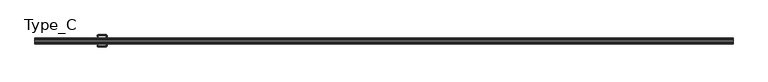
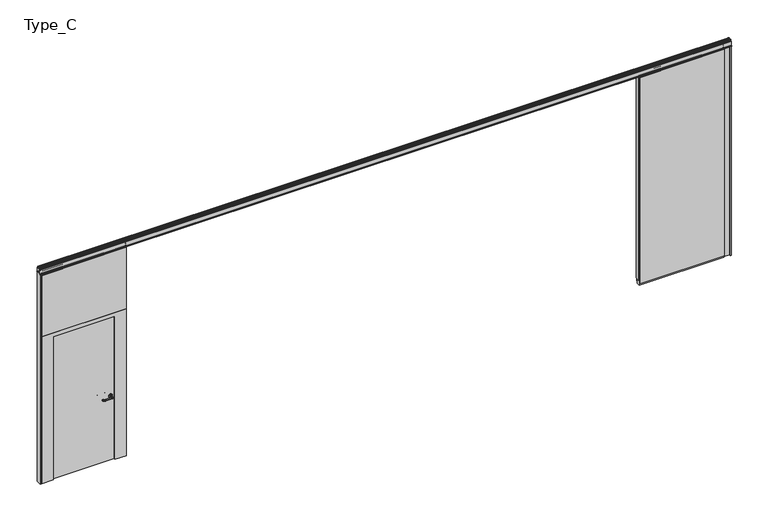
"""IFC4 building model written with IfcOpenShell, lengths in millimetres: proxy geometry, Planner Wall_ダブルガラス(Door) : Type_C."""

from ifc_helpers import new_model, si_unit, point, frame, frame_2d, origin, origin_with_axes, place, context, project, spatial, polyline, circle_curve, ellipse_curve, trimmed, segment, composite_curve, outline, extrude, faceted_brep, source, transform, mapped, element, save
from ifc_brep_helpers import plane_surface, cylinder_surface, revolved_surface, advanced_brep


def type_c_2b327253(model_context):
    return source(origin(), model_context, "Body", "SolidModel", [
        advanced_brep(
        [(961.125, 33.5, 930.0), (957.125, 33.5, 930.0), (952.125, 33.5, 925.0), (952.125, 33.5, 915.0477623), (957.125, 33.5, 910.0477623), (961.125, 33.5, 910.0477623), (966.125, 33.5, 915.0477623), (966.125, 33.5, 925.0), (966.125, 68.5, 925.0), (961.125, 68.5, 930.0), (966.125, 68.5, 915.0477623), (961.125, 68.5, 910.0477623), (957.125, 68.5, 910.0477623), (949.125, 76.5, 910.0477623), (849.125, 76.5, 910.0477623), (841.125, 68.5, 910.0477623), (841.125, 63.5, 910.0477623), (837.125, 63.5, 910.0477623), (837.125, 68.5, 910.0477623), (849.125, 80.5, 910.0477623), (949.125, 80.5, 910.0477623), (952.125, 68.5, 915.0477623), (952.125, 68.5, 925.0), (957.125, 68.5, 930.0), (949.125, 80.5, 930.0), (849.125, 80.5, 930.0), (837.125, 68.5, 930.0), (837.125, 63.5, 930.0), (841.125, 63.5, 930.0), (841.125, 68.5, 930.0), (849.125, 76.5, 930.0), (949.125, 76.5, 930.0), (949.125, 85.5, 925.0), (949.125, 85.5, 915.0477623), (949.125, 71.5, 915.0477623), (949.125, 71.5, 925.0), (849.125, 85.5, 925.0), (849.125, 85.5, 915.0477623), (849.125, 71.5, 915.0477623), (849.125, 71.5, 925.0), (832.125, 68.5, 925.0), (832.125, 68.5, 915.0477623), (846.125, 68.5, 915.0477623), (846.125, 68.5, 925.0), (832.125, 63.5, 925.0), (832.125, 63.5, 915.0477623), (846.125, 63.5, 915.0477623), (846.125, 63.5, 925.0)],
        [
            (0, 1),
            (1, 2, circle_curve(frame((957.125, 33.5, 925.0), z_axis=(0.0, -1.0, 0.0), x_axis=(1.0, 0.0, 0.0)), 5.0)),
            (2, 3),
            (3, 4, circle_curve(frame((957.125, 33.5, 915.0477623), z_axis=(0.0, -1.0, 0.0), x_axis=(1.0, 0.0, 0.0)), 5.0)),
            (4, 5),
            (5, 6, circle_curve(frame((961.125, 33.5, 915.0477623), z_axis=(0.0, -1.0, 0.0), x_axis=(1.0, 0.0, 0.0)), 5.0)),
            (6, 7),
            (7, 0, circle_curve(frame((961.125, 33.5, 925.0), z_axis=(0.0, -1.0, 0.0), x_axis=(1.0, 0.0, 0.0)), 5.0)),
            (7, 8),
            (8, 9, circle_curve(frame((961.125, 68.5, 925.0), z_axis=(0.0, -1.0, 0.0), x_axis=(1.0, 0.0, 0.0)), 5.0)),
            (9, 0),
            (6, 10),
            (10, 8),
            (5, 11),
            (11, 10, circle_curve(frame((961.125, 68.5, 915.0477623), z_axis=(0.0, -1.0, 0.0), x_axis=(1.0, 0.0, 0.0)), 5.0)),
            (4, 12),
            (12, 13, circle_curve(frame((949.125, 68.5, 910.0477623), z_axis=(0.0, 0.0, 1.0), x_axis=(1.0, 0.0, 0.0)), 8.0)),
            (13, 14),
            (14, 15, circle_curve(frame((849.125, 68.5, 910.0477623), z_axis=(0.0, 0.0, 1.0), x_axis=(0.0, 1.0, 0.0)), 8.0)),
            (15, 16),
            (16, 17),
            (17, 18),
            (18, 19, circle_curve(frame((849.125, 68.5, 910.0477623), z_axis=(0.0, 0.0, -1.0), x_axis=(0.0, 1.0, 0.0)), 12.0)),
            (19, 20),
            (20, 11, circle_curve(frame((949.125, 68.5, 910.0477623), z_axis=(0.0, 0.0, -1.0), x_axis=(1.0, 0.0, 0.0)), 12.0)),
            (3, 21),
            (21, 12, circle_curve(frame((957.125, 68.5, 915.0477623), z_axis=(0.0, -1.0, 0.0), x_axis=(1.0, 0.0, 0.0)), 5.0)),
            (2, 22),
            (22, 21),
            (1, 23),
            (23, 22, circle_curve(frame((957.125, 68.5, 925.0), z_axis=(0.0, -1.0, 0.0), x_axis=(1.0, 0.0, 0.0)), 5.0)),
            (9, 24, circle_curve(frame((949.125, 68.5, 930.0), z_axis=(0.0, 0.0, 1.0), x_axis=(1.0, 0.0, 0.0)), 12.0)),
            (24, 25),
            (25, 26, circle_curve(frame((849.125, 68.5, 930.0), z_axis=(0.0, 0.0, 1.0), x_axis=(0.0, 1.0, 0.0)), 12.0)),
            (26, 27),
            (27, 28),
            (28, 29),
            (29, 30, circle_curve(frame((849.125, 68.5, 930.0), z_axis=(0.0, 0.0, -1.0), x_axis=(0.0, 1.0, 0.0)), 8.0)),
            (30, 31),
            (31, 23, circle_curve(frame((949.125, 68.5, 930.0), z_axis=(0.0, 0.0, -1.0), x_axis=(1.0, 0.0, 0.0)), 8.0)),
            (32, 24, circle_curve(frame((949.125, 80.5, 925.0), z_axis=(1.0, 0.0, 0.0), x_axis=(0.0, 1.0, 0.0)), 5.0)),
            (8, 32, circle_curve(frame((949.125, 68.5, 925.0), z_axis=(0.0, 0.0, 1.0), x_axis=(1.0, 0.0, 0.0)), 17.0)),
            (33, 32),
            (10, 33, circle_curve(frame((949.125, 68.5, 915.0477623), z_axis=(0.0, 0.0, 1.0), x_axis=(1.0, 0.0, 0.0)), 17.0)),
            (20, 33, circle_curve(frame((949.125, 80.5, 915.0477623), z_axis=(1.0, 0.0, 0.0), x_axis=(0.0, 1.0, 0.0)), 5.0)),
            (34, 13, circle_curve(frame((949.125, 76.5, 915.0477623), z_axis=(1.0, 0.0, 0.0), x_axis=(0.0, 1.0, 0.0)), 5.0)),
            (21, 34, circle_curve(frame((949.125, 68.5, 915.0477623), z_axis=(0.0, 0.0, 1.0), x_axis=(1.0, 0.0, 0.0)), 3.0)),
            (35, 34),
            (22, 35, circle_curve(frame((949.125, 68.5, 925.0), z_axis=(0.0, 0.0, 1.0), x_axis=(1.0, 0.0, 0.0)), 3.0)),
            (31, 35, circle_curve(frame((949.125, 76.5, 925.0), z_axis=(1.0, 0.0, 0.0), x_axis=(0.0, 1.0, 0.0)), 5.0)),
            (32, 36),
            (36, 25, circle_curve(frame((849.125, 80.5, 925.0), z_axis=(1.0, 0.0, 0.0), x_axis=(0.0, 1.0, 0.0)), 5.0)),
            (33, 37),
            (37, 36),
            (19, 37, circle_curve(frame((849.125, 80.5, 915.0477623), z_axis=(1.0, 0.0, 0.0), x_axis=(0.0, 1.0, 0.0)), 5.0)),
            (34, 38),
            (38, 14, circle_curve(frame((849.125, 76.5, 915.0477623), z_axis=(1.0, 0.0, 0.0), x_axis=(0.0, 1.0, 0.0)), 5.0)),
            (35, 39),
            (39, 38),
            (30, 39, circle_curve(frame((849.125, 76.5, 925.0), z_axis=(1.0, 0.0, 0.0), x_axis=(0.0, 1.0, 0.0)), 5.0)),
            (40, 26, circle_curve(frame((837.125, 68.5, 925.0), z_axis=(0.0, 1.0, 0.0), x_axis=(-1.0, 0.0, 0.0)), 5.0)),
            (36, 40, circle_curve(frame((849.125, 68.5, 925.0), z_axis=(0.0, 0.0, 1.0), x_axis=(0.0, 1.0, 0.0)), 17.0)),
            (41, 40),
            (37, 41, circle_curve(frame((849.125, 68.5, 915.0477623), z_axis=(0.0, 0.0, 1.0), x_axis=(0.0, 1.0, 0.0)), 17.0)),
            (18, 41, circle_curve(frame((837.125, 68.5, 915.0477623), z_axis=(0.0, 1.0, 0.0), x_axis=(-1.0, 0.0, 0.0)), 5.0)),
            (42, 15, circle_curve(frame((841.125, 68.5, 915.0477623), z_axis=(0.0, 1.0, 0.0), x_axis=(-1.0, 0.0, 0.0)), 5.0)),
            (38, 42, circle_curve(frame((849.125, 68.5, 915.0477623), z_axis=(0.0, 0.0, 1.0), x_axis=(0.0, 1.0, 0.0)), 3.0)),
            (43, 42),
            (39, 43, circle_curve(frame((849.125, 68.5, 925.0), z_axis=(0.0, 0.0, 1.0), x_axis=(0.0, 1.0, 0.0)), 3.0)),
            (29, 43, circle_curve(frame((841.125, 68.5, 925.0), z_axis=(0.0, 1.0, 0.0), x_axis=(-1.0, 0.0, 0.0)), 5.0)),
            (27, 44, circle_curve(frame((837.125, 63.5, 925.0), z_axis=(0.0, -1.0, 0.0), x_axis=(-1.0, 0.0, 0.0)), 5.0)),
            (44, 45),
            (45, 17, circle_curve(frame((837.125, 63.5, 915.0477623), z_axis=(0.0, -1.0, 0.0), x_axis=(-1.0, 0.0, 0.0)), 5.0)),
            (16, 46, circle_curve(frame((841.125, 63.5, 915.0477623), z_axis=(0.0, -1.0, 0.0), x_axis=(-1.0, 0.0, 0.0)), 5.0)),
            (46, 47),
            (47, 28, circle_curve(frame((841.125, 63.5, 925.0), z_axis=(0.0, -1.0, 0.0), x_axis=(-1.0, 0.0, 0.0)), 5.0)),
            (40, 44),
            (41, 45),
            (42, 46),
            (43, 47),
        ],
        [
            plane_surface(frame((969.323039, 33.5, 920.0), z_axis=(0.0, -1.0, 0.0), x_axis=(0.0, 0.0, 1.0))),
            cylinder_surface(frame((961.125, 33.5, 925.0), z_axis=(0.0, -1.0, 0.0), x_axis=(1.0, 0.0, 0.0)), 5.0),
            plane_surface(frame((966.125, 33.5, 925.0), z_axis=(1.0, 0.0, 0.0), x_axis=(0.0, 1.0, 0.0))),
            cylinder_surface(frame((961.125, 33.5, 915.0477623), z_axis=(0.0, -1.0, 0.0), x_axis=(1.0, 0.0, 0.0)), 5.0),
            plane_surface(frame((961.125, 33.5, 910.0477623), z_axis=(0.0, 0.0, -1.0), x_axis=(0.0, 1.0, 0.0))),
            cylinder_surface(frame((957.125, 33.5, 915.0477623), z_axis=(0.0, -1.0, 0.0), x_axis=(1.0, 0.0, 0.0)), 5.0),
            plane_surface(frame((952.125, 33.5, 915.0477623), z_axis=(-1.0, 0.0, 0.0), x_axis=(0.0, 1.0, 0.0))),
            cylinder_surface(frame((957.125, 33.5, 925.0), z_axis=(0.0, -1.0, 0.0), x_axis=(1.0, 0.0, 0.0)), 5.0),
            plane_surface(frame((957.125, 33.5, 930.0), z_axis=(0.0, 0.0, 1.0), x_axis=(0.0, 1.0, 0.0))),
            revolved_surface(trimmed(ellipse_curve(frame((961.125, 68.5, 925.0), z_axis=(0.0, 1.0, 0.0), x_axis=(1.0, 0.0, 0.0)), 5.0, 5.0), [point((961.125, 68.5, 930.0))], [point((966.125, 68.5, 925.0))], True, "CARTESIAN"), (949.125, 68.5, 920.0), (0.0, 0.0, -1.0)),
            cylinder_surface(frame((949.125, 68.5, 920.0), z_axis=(0.0, 0.0, -1.0), x_axis=(1.0, 0.0, 0.0)), 17.0),
            revolved_surface(trimmed(ellipse_curve(frame((961.125, 68.5, 915.0477623), z_axis=(0.0, 1.0, 0.0), x_axis=(1.0, 0.0, 0.0)), 5.0, 5.0), [point((966.125, 68.5, 915.0477623))], [point((961.125, 68.5, 910.0477623))], True, "CARTESIAN"), (949.125, 68.5, 920.0), (0.0, 0.0, -1.0)),
            revolved_surface(trimmed(ellipse_curve(frame((957.125, 68.5, 915.0477623), z_axis=(0.0, 1.0, 0.0), x_axis=(1.0, 0.0, 0.0)), 5.0, 5.0), [point((957.125, 68.5, 910.0477623))], [point((952.125, 68.5, 915.0477623))], True, "CARTESIAN"), (949.125, 68.5, 920.0), (0.0, 0.0, -1.0)),
            revolved_surface(polyline([(952.125, 68.5, 915.0477623), (952.125, 68.5, 925.0)]), (949.125, 68.5, 920.0), (0.0, 0.0, -1.0)),
            revolved_surface(trimmed(ellipse_curve(frame((957.125, 68.5, 925.0), z_axis=(0.0, 1.0, 0.0), x_axis=(1.0, 0.0, 0.0)), 5.0, 5.0), [point((952.125, 68.5, 925.0))], [point((957.125, 68.5, 930.0))], True, "CARTESIAN"), (949.125, 68.5, 920.0), (0.0, 0.0, -1.0)),
            cylinder_surface(frame((949.125, 80.5, 925.0), z_axis=(1.0, 0.0, 0.0), x_axis=(0.0, 1.0, 0.0)), 5.0),
            plane_surface(frame((949.125, 85.5, 925.0), z_axis=(0.0, 1.0, 0.0), x_axis=(-1.0, 0.0, 0.0))),
            cylinder_surface(frame((949.125, 80.5, 915.0477623), z_axis=(1.0, 0.0, 0.0), x_axis=(0.0, 1.0, 0.0)), 5.0),
            cylinder_surface(frame((949.125, 76.5, 915.0477623), z_axis=(1.0, 0.0, 0.0), x_axis=(0.0, 1.0, 0.0)), 5.0),
            plane_surface(frame((949.125, 71.5, 915.0477623), z_axis=(0.0, -1.0, 0.0), x_axis=(-1.0, 0.0, 0.0))),
            cylinder_surface(frame((949.125, 76.5, 925.0), z_axis=(1.0, 0.0, 0.0), x_axis=(0.0, 1.0, 0.0)), 5.0),
            revolved_surface(trimmed(ellipse_curve(frame((849.125, 80.5, 925.0), z_axis=(-1.0, 0.0, 0.0), x_axis=(0.0, 1.0, 0.0)), 5.0, 5.0), [point((849.125, 80.5, 930.0))], [point((849.125, 85.5, 925.0))], True, "CARTESIAN"), (849.125, 68.5, 920.0), (0.0, 0.0, -1.0)),
            cylinder_surface(frame((849.125, 68.5, 920.0), z_axis=(0.0, 0.0, -1.0), x_axis=(0.0, 1.0, 0.0)), 17.0),
            revolved_surface(trimmed(ellipse_curve(frame((849.125, 80.5, 915.0477623), z_axis=(-1.0, 0.0, 0.0), x_axis=(0.0, 1.0, 0.0)), 5.0, 5.0), [point((849.125, 85.5, 915.0477623))], [point((849.125, 80.5, 910.0477623))], True, "CARTESIAN"), (849.125, 68.5, 920.0), (0.0, 0.0, -1.0)),
            revolved_surface(trimmed(ellipse_curve(frame((849.125, 76.5, 915.0477623), z_axis=(-1.0, 0.0, 0.0), x_axis=(0.0, 1.0, 0.0)), 5.0, 5.0), [point((849.125, 76.5, 910.0477623))], [point((849.125, 71.5, 915.0477623))], True, "CARTESIAN"), (849.125, 68.5, 920.0), (0.0, 0.0, -1.0)),
            revolved_surface(polyline([(849.125, 71.5, 915.0477623), (849.125, 71.5, 925.0)]), (849.125, 68.5, 920.0), (0.0, 0.0, -1.0)),
            revolved_surface(trimmed(ellipse_curve(frame((849.125, 76.5, 925.0), z_axis=(-1.0, 0.0, 0.0), x_axis=(0.0, 1.0, 0.0)), 5.0, 5.0), [point((849.125, 71.5, 925.0))], [point((849.125, 76.5, 930.0))], True, "CARTESIAN"), (849.125, 68.5, 920.0), (0.0, 0.0, -1.0)),
            plane_surface(frame((849.323039, 63.5, 920.0), z_axis=(0.0, -1.0, 0.0), x_axis=(0.0, 0.0, -1.0))),
            cylinder_surface(frame((837.125, 68.5, 925.0), z_axis=(0.0, 1.0, 0.0), x_axis=(-1.0, 0.0, 0.0)), 5.0),
            plane_surface(frame((832.125, 68.5, 925.0), z_axis=(-1.0, 0.0, 0.0), x_axis=(0.0, -1.0, 0.0))),
            cylinder_surface(frame((837.125, 68.5, 915.0477623), z_axis=(0.0, 1.0, 0.0), x_axis=(-1.0, 0.0, 0.0)), 5.0),
            cylinder_surface(frame((841.125, 68.5, 915.0477623), z_axis=(0.0, 1.0, 0.0), x_axis=(-1.0, 0.0, 0.0)), 5.0),
            plane_surface(frame((846.125, 68.5, 915.0477623), z_axis=(1.0, 0.0, 0.0), x_axis=(0.0, -1.0, 0.0))),
            cylinder_surface(frame((841.125, 68.5, 925.0), z_axis=(0.0, 1.0, 0.0), x_axis=(-1.0, 0.0, 0.0)), 5.0),
        ],
        [
            (0, [[1, 2, 3, 4, 5, 6, 7, 8]]),
            (1, [[9, 10, 11, -8]]),
            (2, [[12, 13, -9, -7]]),
            (3, [[14, 15, -12, -6]]),
            (4, [[16, 17, 18, 19, 20, 21, 22, 23, 24, 25, -14, -5]]),
            (5, [[26, 27, -16, -4]]),
            (6, [[28, 29, -26, -3]]),
            (7, [[30, 31, -28, -2]]),
            (8, [[-11, 32, 33, 34, 35, 36, 37, 38, 39, 40, -30, -1]]),
            (9, [[41, -32, -10, 42]]),
            (10, [[43, -42, -13, 44]]),
            (11, [[45, -44, -15, -25]]),
            (12, [[46, -17, -27, 47]]),
            (13, [[48, -47, -29, 49]]),
            (14, [[50, -49, -31, -40]]),
            (15, [[51, 52, -33, -41]]),
            (16, [[53, 54, -51, -43]]),
            (17, [[-24, 55, -53, -45]]),
            (18, [[56, 57, -18, -46]]),
            (19, [[58, 59, -56, -48]]),
            (20, [[-39, 60, -58, -50]]),
            (21, [[61, -34, -52, 62]]),
            (22, [[63, -62, -54, 64]]),
            (23, [[65, -64, -55, -23]]),
            (24, [[66, -19, -57, 67]]),
            (25, [[68, -67, -59, 69]]),
            (26, [[70, -69, -60, -38]]),
            (27, [[71, 72, 73, -21, 74, 75, 76, -36]]),
            (28, [[77, -71, -35, -61]]),
            (29, [[78, -72, -77, -63]]),
            (30, [[-22, -73, -78, -65]]),
            (31, [[79, -74, -20, -66]]),
            (32, [[80, -75, -79, -68]]),
            (33, [[-37, -76, -80, -70]]),
        ],
    ),
        advanced_brep(
        [(957.125, -26.5, 910.0), (952.125, -26.5, 915.0), (952.125, -26.5, 925.0), (957.125, -26.5, 930.0), (961.125, -26.5, 930.0), (966.125, -26.5, 925.0), (966.125, -26.5, 915.0), (961.125, -26.5, 910.0), (961.125, -61.5, 910.0), (949.125, -73.5, 910.0), (849.125, -73.5, 910.0), (837.125, -61.5, 910.0), (837.125, -56.5, 910.0), (841.125, -56.5, 910.0), (841.125, -61.5, 910.0), (849.125, -69.5, 910.0), (949.125, -69.5, 910.0), (957.125, -61.5, 910.0), (966.125, -61.5, 915.0), (966.125, -61.5, 925.0), (961.125, -61.5, 930.0), (957.125, -61.5, 930.0), (949.125, -69.5, 930.0), (849.125, -69.5, 930.0), (841.125, -61.5, 930.0), (841.125, -56.5, 930.0), (837.125, -56.5, 930.0), (837.125, -61.5, 930.0), (849.125, -73.5, 930.0), (949.125, -73.5, 930.0), (952.125, -61.5, 925.0), (952.125, -61.5, 915.0), (949.125, -78.5, 915.0), (949.125, -78.5, 925.0), (949.125, -64.5, 925.0), (949.125, -64.5, 915.0), (849.125, -78.5, 915.0), (849.125, -78.5, 925.0), (849.125, -64.5, 925.0), (849.125, -64.5, 915.0), (832.125, -61.5, 915.0), (832.125, -61.5, 925.0), (846.125, -61.5, 925.0), (846.125, -61.5, 915.0), (832.125, -56.5, 915.0), (832.125, -56.5, 925.0), (846.125, -56.5, 925.0), (846.125, -56.5, 915.0)],
        [
            (0, 1, circle_curve(frame((957.125, -26.5, 915.0), z_axis=(0.0, 1.0, 0.0), x_axis=(-1.0, 0.0, 0.0)), 5.0)),
            (1, 2),
            (2, 3, circle_curve(frame((957.125, -26.5, 925.0), z_axis=(0.0, 1.0, 0.0), x_axis=(-1.0, 0.0, 0.0)), 5.0)),
            (3, 4),
            (4, 5, circle_curve(frame((961.125, -26.5, 925.0), z_axis=(0.0, 1.0, 0.0), x_axis=(-1.0, 0.0, 0.0)), 5.0)),
            (5, 6),
            (6, 7, circle_curve(frame((961.125, -26.5, 915.0), z_axis=(0.0, 1.0, 0.0), x_axis=(-1.0, 0.0, 0.0)), 5.0)),
            (7, 0),
            (7, 8),
            (8, 9, circle_curve(frame((949.125, -61.5, 910.0), z_axis=(0.0, 0.0, -1.0), x_axis=(1.0, 0.0, 0.0)), 12.0)),
            (9, 10),
            (10, 11, circle_curve(frame((849.125, -61.5, 910.0), z_axis=(0.0, 0.0, -1.0), x_axis=(0.0, -1.0, 0.0)), 12.0)),
            (11, 12),
            (12, 13),
            (13, 14),
            (14, 15, circle_curve(frame((849.125, -61.5, 910.0), z_axis=(0.0, 0.0, 1.0), x_axis=(0.0, -1.0, 0.0)), 8.0)),
            (15, 16),
            (16, 17, circle_curve(frame((949.125, -61.5, 910.0), z_axis=(0.0, 0.0, 1.0), x_axis=(1.0, 0.0, 0.0)), 8.0)),
            (17, 0),
            (6, 18),
            (18, 8, circle_curve(frame((961.125, -61.5, 915.0), z_axis=(0.0, 1.0, 0.0), x_axis=(-1.0, 0.0, 0.0)), 5.0)),
            (5, 19),
            (19, 18),
            (4, 20),
            (20, 19, circle_curve(frame((961.125, -61.5, 925.0), z_axis=(0.0, 1.0, 0.0), x_axis=(-1.0, 0.0, 0.0)), 5.0)),
            (3, 21),
            (21, 22, circle_curve(frame((949.125, -61.5, 930.0), z_axis=(0.0, 0.0, -1.0), x_axis=(1.0, 0.0, 0.0)), 8.0)),
            (22, 23),
            (23, 24, circle_curve(frame((849.125, -61.5, 930.0), z_axis=(0.0, 0.0, -1.0), x_axis=(0.0, -1.0, 0.0)), 8.0)),
            (24, 25),
            (25, 26),
            (26, 27),
            (27, 28, circle_curve(frame((849.125, -61.5, 930.0), z_axis=(0.0, 0.0, 1.0), x_axis=(0.0, -1.0, 0.0)), 12.0)),
            (28, 29),
            (29, 20, circle_curve(frame((949.125, -61.5, 930.0), z_axis=(0.0, 0.0, 1.0), x_axis=(1.0, 0.0, 0.0)), 12.0)),
            (2, 30),
            (30, 21, circle_curve(frame((957.125, -61.5, 925.0), z_axis=(0.0, 1.0, 0.0), x_axis=(-1.0, 0.0, 0.0)), 5.0)),
            (1, 31),
            (31, 30),
            (17, 31, circle_curve(frame((957.125, -61.5, 915.0), z_axis=(0.0, 1.0, 0.0), x_axis=(-1.0, 0.0, 0.0)), 5.0)),
            (32, 9, circle_curve(frame((949.125, -73.5, 915.0), z_axis=(1.0, 0.0, 0.0), x_axis=(0.0, 1.0, 0.0)), 5.0)),
            (18, 32, circle_curve(frame((949.125, -61.5, 915.0), z_axis=(0.0, 0.0, -1.0), x_axis=(1.0, 0.0, 0.0)), 17.0)),
            (33, 32),
            (19, 33, circle_curve(frame((949.125, -61.5, 925.0), z_axis=(0.0, 0.0, -1.0), x_axis=(1.0, 0.0, 0.0)), 17.0)),
            (29, 33, circle_curve(frame((949.125, -73.5, 925.0), z_axis=(1.0, 0.0, 0.0), x_axis=(0.0, 1.0, 0.0)), 5.0)),
            (34, 22, circle_curve(frame((949.125, -69.5, 925.0), z_axis=(1.0, 0.0, 0.0), x_axis=(0.0, 1.0, 0.0)), 5.0)),
            (30, 34, circle_curve(frame((949.125, -61.5, 925.0), z_axis=(0.0, 0.0, -1.0), x_axis=(1.0, 0.0, 0.0)), 3.0)),
            (35, 34),
            (31, 35, circle_curve(frame((949.125, -61.5, 915.0), z_axis=(0.0, 0.0, -1.0), x_axis=(1.0, 0.0, 0.0)), 3.0)),
            (16, 35, circle_curve(frame((949.125, -69.5, 915.0), z_axis=(1.0, 0.0, 0.0), x_axis=(0.0, 1.0, 0.0)), 5.0)),
            (32, 36),
            (36, 10, circle_curve(frame((849.125, -73.5, 915.0), z_axis=(1.0, 0.0, 0.0), x_axis=(0.0, 1.0, 0.0)), 5.0)),
            (33, 37),
            (37, 36),
            (28, 37, circle_curve(frame((849.125, -73.5, 925.0), z_axis=(1.0, 0.0, 0.0), x_axis=(0.0, 1.0, 0.0)), 5.0)),
            (34, 38),
            (38, 23, circle_curve(frame((849.125, -69.5, 925.0), z_axis=(1.0, 0.0, 0.0), x_axis=(0.0, 1.0, 0.0)), 5.0)),
            (35, 39),
            (39, 38),
            (15, 39, circle_curve(frame((849.125, -69.5, 915.0), z_axis=(1.0, 0.0, 0.0), x_axis=(0.0, 1.0, 0.0)), 5.0)),
            (40, 11, circle_curve(frame((837.125, -61.5, 915.0), z_axis=(0.0, -1.0, 0.0), x_axis=(1.0, 0.0, 0.0)), 5.0)),
            (36, 40, circle_curve(frame((849.125, -61.5, 915.0), z_axis=(0.0, 0.0, -1.0), x_axis=(0.0, -1.0, 0.0)), 17.0)),
            (41, 40),
            (37, 41, circle_curve(frame((849.125, -61.5, 925.0), z_axis=(0.0, 0.0, -1.0), x_axis=(0.0, -1.0, 0.0)), 17.0)),
            (27, 41, circle_curve(frame((837.125, -61.5, 925.0), z_axis=(0.0, -1.0, 0.0), x_axis=(1.0, 0.0, 0.0)), 5.0)),
            (42, 24, circle_curve(frame((841.125, -61.5, 925.0), z_axis=(0.0, -1.0, 0.0), x_axis=(1.0, 0.0, 0.0)), 5.0)),
            (38, 42, circle_curve(frame((849.125, -61.5, 925.0), z_axis=(0.0, 0.0, -1.0), x_axis=(0.0, -1.0, 0.0)), 3.0)),
            (43, 42),
            (39, 43, circle_curve(frame((849.125, -61.5, 915.0), z_axis=(0.0, 0.0, -1.0), x_axis=(0.0, -1.0, 0.0)), 3.0)),
            (14, 43, circle_curve(frame((841.125, -61.5, 915.0), z_axis=(0.0, -1.0, 0.0), x_axis=(1.0, 0.0, 0.0)), 5.0)),
            (12, 44, circle_curve(frame((837.125, -56.5, 915.0), z_axis=(0.0, 1.0, 0.0), x_axis=(1.0, 0.0, 0.0)), 5.0)),
            (44, 45),
            (45, 26, circle_curve(frame((837.125, -56.5, 925.0), z_axis=(0.0, 1.0, 0.0), x_axis=(1.0, 0.0, 0.0)), 5.0)),
            (25, 46, circle_curve(frame((841.125, -56.5, 925.0), z_axis=(0.0, 1.0, 0.0), x_axis=(1.0, 0.0, 0.0)), 5.0)),
            (46, 47),
            (47, 13, circle_curve(frame((841.125, -56.5, 915.0), z_axis=(0.0, 1.0, 0.0), x_axis=(1.0, 0.0, 0.0)), 5.0)),
            (40, 44),
            (41, 45),
            (42, 46),
            (43, 47),
        ],
        [
            plane_surface(frame((969.323039, -26.5, 920.0), z_axis=(0.0, 1.0, 0.0), x_axis=(0.0, 0.0, -1.0))),
            plane_surface(frame((957.125, -26.5, 910.0), z_axis=(0.0, 0.0, -1.0), x_axis=(0.0, -1.0, 0.0))),
            cylinder_surface(frame((961.125, -26.5, 915.0), z_axis=(0.0, 1.0, 0.0), x_axis=(-1.0, 0.0, 0.0)), 5.0),
            plane_surface(frame((966.125, -26.5, 915.0), z_axis=(1.0, 0.0, 0.0), x_axis=(0.0, -1.0, 0.0))),
            cylinder_surface(frame((961.125, -26.5, 925.0), z_axis=(0.0, 1.0, 0.0), x_axis=(-1.0, 0.0, 0.0)), 5.0),
            plane_surface(frame((961.125, -26.5, 930.0), z_axis=(0.0, 0.0, 1.0), x_axis=(0.0, -1.0, 0.0))),
            cylinder_surface(frame((957.125, -26.5, 925.0), z_axis=(0.0, 1.0, 0.0), x_axis=(-1.0, 0.0, 0.0)), 5.0),
            plane_surface(frame((952.125, -26.5, 925.0), z_axis=(-1.0, 0.0, 0.0), x_axis=(0.0, -1.0, 0.0))),
            cylinder_surface(frame((957.125, -26.5, 915.0), z_axis=(0.0, 1.0, 0.0), x_axis=(-1.0, 0.0, 0.0)), 5.0),
            revolved_surface(trimmed(ellipse_curve(frame((961.125, -61.5, 915.0), z_axis=(0.0, -1.0, 0.0), x_axis=(-1.0, 0.0, 0.0)), 5.0, 5.0), [point((961.125, -61.5, 910.0))], [point((966.125, -61.5, 915.0))], True, "CARTESIAN"), (949.125, -61.5, 920.0), (0.0, 0.0, 1.0)),
            cylinder_surface(frame((949.125, -61.5, 920.0), z_axis=(0.0, 0.0, 1.0), x_axis=(1.0, 0.0, 0.0)), 17.0),
            revolved_surface(trimmed(ellipse_curve(frame((961.125, -61.5, 925.0), z_axis=(0.0, -1.0, 0.0), x_axis=(-1.0, 0.0, 0.0)), 5.0, 5.0), [point((966.125, -61.5, 925.0))], [point((961.125, -61.5, 930.0))], True, "CARTESIAN"), (949.125, -61.5, 920.0), (0.0, 0.0, 1.0)),
            revolved_surface(trimmed(ellipse_curve(frame((957.125, -61.5, 925.0), z_axis=(0.0, -1.0, 0.0), x_axis=(-1.0, 0.0, 0.0)), 5.0, 5.0), [point((957.125, -61.5, 930.0))], [point((952.125, -61.5, 925.0))], True, "CARTESIAN"), (949.125, -61.5, 920.0), (0.0, 0.0, 1.0)),
            revolved_surface(polyline([(952.125, -61.5, 925.0), (952.125, -61.5, 915.0)]), (949.125, -61.5, 920.0), (0.0, 0.0, 1.0)),
            revolved_surface(trimmed(ellipse_curve(frame((957.125, -61.5, 915.0), z_axis=(0.0, -1.0, 0.0), x_axis=(-1.0, 0.0, 0.0)), 5.0, 5.0), [point((952.125, -61.5, 915.0))], [point((957.125, -61.5, 910.0))], True, "CARTESIAN"), (949.125, -61.5, 920.0), (0.0, 0.0, 1.0)),
            cylinder_surface(frame((949.125, -73.5, 915.0), z_axis=(1.0, 0.0, 0.0), x_axis=(0.0, 1.0, 0.0)), 5.0),
            plane_surface(frame((949.125, -78.5, 915.0), z_axis=(0.0, -1.0, 0.0), x_axis=(-1.0, 0.0, 0.0))),
            cylinder_surface(frame((949.125, -73.5, 925.0), z_axis=(1.0, 0.0, 0.0), x_axis=(0.0, 1.0, 0.0)), 5.0),
            cylinder_surface(frame((949.125, -69.5, 925.0), z_axis=(1.0, 0.0, 0.0), x_axis=(0.0, 1.0, 0.0)), 5.0),
            plane_surface(frame((949.125, -64.5, 925.0), z_axis=(0.0, 1.0, 0.0), x_axis=(-1.0, 0.0, 0.0))),
            cylinder_surface(frame((949.125, -69.5, 915.0), z_axis=(1.0, 0.0, 0.0), x_axis=(0.0, 1.0, 0.0)), 5.0),
            revolved_surface(trimmed(ellipse_curve(frame((849.125, -73.5, 915.0), z_axis=(-1.0, 0.0, 0.0), x_axis=(0.0, 1.0, 0.0)), 5.0, 5.0), [point((849.125, -73.5, 910.0))], [point((849.125, -78.5, 915.0))], True, "CARTESIAN"), (849.125, -61.5, 920.0), (0.0, 0.0, 1.0)),
            cylinder_surface(frame((849.125, -61.5, 920.0), z_axis=(0.0, 0.0, 1.0), x_axis=(0.0, -1.0, 0.0)), 17.0),
            revolved_surface(trimmed(ellipse_curve(frame((849.125, -73.5, 925.0), z_axis=(-1.0, 0.0, 0.0), x_axis=(0.0, 1.0, 0.0)), 5.0, 5.0), [point((849.125, -78.5, 925.0))], [point((849.125, -73.5, 930.0))], True, "CARTESIAN"), (849.125, -61.5, 920.0), (0.0, 0.0, 1.0)),
            revolved_surface(trimmed(ellipse_curve(frame((849.125, -69.5, 925.0), z_axis=(-1.0, 0.0, 0.0), x_axis=(0.0, 1.0, 0.0)), 5.0, 5.0), [point((849.125, -69.5, 930.0))], [point((849.125, -64.5, 925.0))], True, "CARTESIAN"), (849.125, -61.5, 920.0), (0.0, 0.0, 1.0)),
            revolved_surface(polyline([(849.125, -64.5, 925.0), (849.125, -64.5, 915.0)]), (849.125, -61.5, 920.0), (0.0, 0.0, 1.0)),
            revolved_surface(trimmed(ellipse_curve(frame((849.125, -69.5, 915.0), z_axis=(-1.0, 0.0, 0.0), x_axis=(0.0, 1.0, 0.0)), 5.0, 5.0), [point((849.125, -64.5, 915.0))], [point((849.125, -69.5, 910.0))], True, "CARTESIAN"), (849.125, -61.5, 920.0), (0.0, 0.0, 1.0)),
            plane_surface(frame((849.323039, -56.5, 920.0), z_axis=(0.0, 1.0, 0.0), x_axis=(0.0, 0.0, 1.0))),
            cylinder_surface(frame((837.125, -61.5, 915.0), z_axis=(0.0, -1.0, 0.0), x_axis=(1.0, 0.0, 0.0)), 5.0),
            plane_surface(frame((832.125, -61.5, 915.0), z_axis=(-1.0, 0.0, 0.0), x_axis=(0.0, 1.0, 0.0))),
            cylinder_surface(frame((837.125, -61.5, 925.0), z_axis=(0.0, -1.0, 0.0), x_axis=(1.0, 0.0, 0.0)), 5.0),
            cylinder_surface(frame((841.125, -61.5, 925.0), z_axis=(0.0, -1.0, 0.0), x_axis=(1.0, 0.0, 0.0)), 5.0),
            plane_surface(frame((846.125, -61.5, 925.0), z_axis=(1.0, 0.0, 0.0), x_axis=(0.0, 1.0, 0.0))),
            cylinder_surface(frame((841.125, -61.5, 915.0), z_axis=(0.0, -1.0, 0.0), x_axis=(1.0, 0.0, 0.0)), 5.0),
        ],
        [
            (0, [[1, 2, 3, 4, 5, 6, 7, 8]]),
            (1, [[9, 10, 11, 12, 13, 14, 15, 16, 17, 18, 19, -8]]),
            (2, [[20, 21, -9, -7]]),
            (3, [[22, 23, -20, -6]]),
            (4, [[24, 25, -22, -5]]),
            (5, [[26, 27, 28, 29, 30, 31, 32, 33, 34, 35, -24, -4]]),
            (6, [[36, 37, -26, -3]]),
            (7, [[38, 39, -36, -2]]),
            (8, [[-19, 40, -38, -1]]),
            (9, [[41, -10, -21, 42]]),
            (10, [[43, -42, -23, 44]]),
            (11, [[45, -44, -25, -35]]),
            (12, [[46, -27, -37, 47]]),
            (13, [[48, -47, -39, 49]]),
            (14, [[50, -49, -40, -18]]),
            (15, [[51, 52, -11, -41]]),
            (16, [[53, 54, -51, -43]]),
            (17, [[-34, 55, -53, -45]]),
            (18, [[56, 57, -28, -46]]),
            (19, [[58, 59, -56, -48]]),
            (20, [[-17, 60, -58, -50]]),
            (21, [[61, -12, -52, 62]]),
            (22, [[63, -62, -54, 64]]),
            (23, [[65, -64, -55, -33]]),
            (24, [[66, -29, -57, 67]]),
            (25, [[68, -67, -59, 69]]),
            (26, [[70, -69, -60, -16]]),
            (27, [[-14, 71, 72, 73, -31, 74, 75, 76]]),
            (28, [[77, -71, -13, -61]]),
            (29, [[78, -72, -77, -63]]),
            (30, [[-32, -73, -78, -65]]),
            (31, [[79, -74, -30, -66]]),
            (32, [[80, -75, -79, -68]]),
            (33, [[-15, -76, -80, -70]]),
        ],
    ),
        extrude(outline(composite_curve([segment(trimmed(circle_curve(frame_2d((920.0, 959.125)), 25.0), [point((920.0, 984.125))], [point((920.0, 934.125))], False, "CARTESIAN"), True, "CONTINUOUS"), segment(trimmed(circle_curve(frame_2d((920.0, 959.125)), 25.0), [point((920.0, 934.125))], [point((920.0, 984.125))], False, "CARTESIAN"), True, "CONTINUOUS")], self_intersect=False)), frame((0.0, 23.5, 0.0), z_axis=(0.0, 1.0, 0.0), x_axis=(0.0, 0.0, 1.0)), (0.0, 0.0, 1.0), 10.0),
        extrude(outline(composite_curve([segment(trimmed(circle_curve(frame_2d((920.0, 959.125)), 25.0), [point((920.0, 984.125))], [point((920.0, 934.125))], False, "CARTESIAN"), True, "CONTINUOUS"), segment(trimmed(circle_curve(frame_2d((920.0, 959.125)), 25.0), [point((920.0, 934.125))], [point((920.0, 984.125))], False, "CARTESIAN"), True, "CONTINUOUS")], self_intersect=False)), frame((0.0, -26.5, 0.0), z_axis=(0.0, 1.0, 0.0), x_axis=(0.0, 0.0, 1.0)), (0.0, 0.0, 1.0), 10.0),
        extrude(outline(polyline([(1023.125, -16.5), (166.5, -16.5), (166.5, 23.5), (1023.125, 23.5), (1023.125, -16.5)])), origin_with_axes(), (0.0, 0.0, 1.0), 2062.0),
        faceted_brep([(21.5, -35.0, 0.0), (21.5, 35.0, 0.0), (154.0, 35.0, 0.0), (154.0, 26.0, 0.0), (162.5, 26.0, 0.0), (162.5, -20.5, 0.0), (177.5, -20.5, 0.0), (177.5, -35.0, 0.0), (1036.625, 35.0, 0.0), (1169.125, 35.0, 0.0), (1169.125, 25.0, 0.0), (1163.625, 25.0, 0.0), (1163.625, -25.0, 0.0), (1169.125, -25.0, 0.0), (1169.125, -35.0, 0.0), (1013.125, -35.0, 0.0), (1013.125, -20.5, 0.0), (1028.125, -20.5, 0.0), (1028.125, 26.0, 0.0), (1036.625, 26.0, 0.0), (21.5, 35.0, 2100.0), (21.5, -35.0, 2100.0), (1169.125, -35.0, 2100.0), (1169.125, -25.0, 2100.0), (1163.625, -25.0, 2100.0), (1163.625, 25.0, 2100.0), (1169.125, 25.0, 2100.0), (1169.125, 35.0, 2100.0), (177.5, -20.5, 2100.0), (162.5, -20.5, 2100.0), (162.5, 25.0, 2100.0), (1028.125, 25.0, 2100.0), (1028.125, -20.5, 2100.0), (1013.125, -20.5, 2100.0), (1013.125, -25.0, 2100.0), (177.5, -25.0, 2100.0), (1036.625, 35.0, 2066.0), (154.0, 35.0, 2066.0), (154.0, 26.0, 2066.0), (162.5, 26.0, 2066.0), (162.5, 25.0, 2066.0), (177.5, -25.0, 2046.0), (177.5, -35.0, 2046.0), (1013.125, -35.0, 2046.0), (1013.125, -25.0, 2046.0), (1028.125, 25.0, 2066.0), (1028.125, 26.0, 2066.0), (1036.625, 26.0, 2066.0)], [[[0, 1, 2, 3, 4, 5, 6, 7]], [[8, 9, 10, 11, 12, 13, 14, 15, 16, 17, 18, 19]], [[20, 21, 22, 23, 24, 25, 26, 27], [28, 29, 30, 31, 32, 33, 34, 35]], [[1, 0, 21, 20]], [[2, 1, 20, 27, 9, 8, 36, 37]], [[3, 2, 37, 38]], [[4, 3, 38, 39]], [[5, 4, 39, 40, 30, 29]], [[6, 5, 29, 28]], [[7, 6, 28, 35, 41, 42]], [[0, 7, 42, 43, 15, 14, 22, 21]], [[10, 9, 27, 26]], [[11, 10, 26, 25]], [[12, 11, 25, 24]], [[13, 12, 24, 23]], [[14, 13, 23, 22]], [[16, 15, 43, 44, 34, 33]], [[17, 16, 33, 32]], [[18, 17, 32, 31, 45, 46]], [[19, 18, 46, 47]], [[8, 19, 47, 36]], [[43, 42, 41, 44]], [[35, 34, 44, 41]], [[31, 30, 40, 45]], [[37, 36, 47, 46, 45, 40, 39, 38]]]),
        extrude(outline(composite_curve([segment(polyline([(23.5, 3050.1000003), (26.5, 3047.1000003), (26.5, 3032.6)]), True, "CONTINUOUS"), segment(trimmed(circle_curve(frame_2d((25.0, 3032.6)), 1.5), [point((26.5, 3032.6))], [point((25.0, 3031.1))], False, "CARTESIAN"), True, "CONTINUOUS"), segment(polyline([(25.0, 3031.1), (9.0, 3031.1), (9.0, 3019.1000003), (23.5, 3019.1000003), (26.5, 3016.1000003), (26.5, 3001.5)]), True, "CONTINUOUS"), segment(trimmed(circle_curve(frame_2d((25.0, 3001.5)), 1.5), [point((26.5, 3001.5))], [point((25.0, 3000.0))], False, "CARTESIAN"), True, "CONTINUOUS"), segment(polyline([(25.0, 3000.0), (7.5, 3000.0), (7.5, 2994.5), (25.0, 2994.5), (25.0, 2935.0), (-25.0, 2935.0), (-25.0, 2994.5), (-7.5, 2994.5), (-7.5, 3000.0), (-25.0, 3000.0)]), True, "CONTINUOUS"), segment(trimmed(circle_curve(frame_2d((-25.0, 3001.5)), 1.5), [point((-25.0, 3000.0))], [point((-26.5, 3001.5))], False, "CARTESIAN"), True, "CONTINUOUS"), segment(polyline([(-26.5, 3001.5), (-26.5, 3016.1000003), (-23.5, 3019.1000003), (-9.0, 3019.1000003), (-9.0, 3031.1), (-25.0, 3031.1)]), True, "CONTINUOUS"), segment(trimmed(circle_curve(frame_2d((-25.0, 3032.6)), 1.5), [point((-25.0, 3031.1))], [point((-26.5, 3032.6))], False, "CARTESIAN"), True, "CONTINUOUS"), segment(polyline([(-26.5, 3032.6), (-26.5, 3047.1000003), (-23.5, 3050.1000003), (23.5, 3050.1000003)]), True, "CONTINUOUS")], self_intersect=False)), frame((21.5, 0.0, 0.0), z_axis=(1.0, 0.0, 0.0), x_axis=(0.0, 1.0, 0.0)), (0.0, 0.0, 1.0), 1147.625),
        extrude(outline(polyline([(1169.125, 24.9), (21.5, 24.9), (21.5, 35.0), (1169.125, 35.0), (1169.125, 24.9)])), frame((0.0, 0.0, 2100.0), z_axis=(0.0, 0.0, 1.0), x_axis=(1.0, 0.0, 0.0)), (0.0, 0.0, 1.0), 875.0),
        extrude(outline(polyline([(1169.125, -35.0), (21.5, -35.0), (21.5, -24.9), (1169.125, -24.9), (1169.125, -35.0)])), frame((0.0, 0.0, 2100.0), z_axis=(0.0, 0.0, 1.0), x_axis=(1.0, 0.0, 0.0)), (0.0, 0.0, 1.0), 875.0),
        extrude(outline(polyline([(8.0, -25.0), (8.0, 25.0), (21.5, 25.0), (21.5, -25.0), (8.0, -25.0)])), frame((0.0, 0.0, 53.0), z_axis=(0.0, 0.0, 1.0), x_axis=(1.0, 0.0, 0.0)), (0.0, 0.0, 1.0), 2869.0),
        extrude(outline(polyline([(8110.875, -25.0), (8110.875, 25.0), (9253.0, 25.0), (9253.0, -25.0), (8110.875, -25.0)])), origin_with_axes(), (0.0, 0.0, 1.0), 65.0),
        extrude(outline(polyline([(9253.0, -19.5), (9253.0, 19.5), (9335.5, 19.5), (9335.5, 25.0), (9342.0, 25.0), (9342.0, -25.0), (9335.5, -25.0), (9335.5, -19.5), (9253.0, -19.5)])), origin_with_axes(), (0.0, 0.0, 1.0), 2994.0),
        extrude(outline(composite_curve([segment(polyline([(23.5, 3050.1000003), (26.5, 3047.1000003), (26.5, 3032.6)]), True, "CONTINUOUS"), segment(trimmed(circle_curve(frame_2d((25.0, 3032.6)), 1.5), [point((26.5, 3032.6))], [point((25.0, 3031.1))], False, "CARTESIAN"), True, "CONTINUOUS"), segment(polyline([(25.0, 3031.1), (9.0, 3031.1), (9.0, 3019.1000003), (23.5, 3019.1000003), (26.5, 3016.1000003), (26.5, 3001.5)]), True, "CONTINUOUS"), segment(trimmed(circle_curve(frame_2d((25.0, 3001.5)), 1.5), [point((26.5, 3001.5))], [point((25.0, 3000.0))], False, "CARTESIAN"), True, "CONTINUOUS"), segment(polyline([(25.0, 3000.0), (7.5, 3000.0), (7.5, 2994.5), (25.0, 2994.5), (25.0, 2935.0), (-25.0, 2935.0), (-25.0, 2994.5), (-7.5, 2994.5), (-7.5, 3000.0), (-25.0, 3000.0)]), True, "CONTINUOUS"), segment(trimmed(circle_curve(frame_2d((-25.0, 3001.5)), 1.5), [point((-25.0, 3000.0))], [point((-26.5, 3001.5))], False, "CARTESIAN"), True, "CONTINUOUS"), segment(polyline([(-26.5, 3001.5), (-26.5, 3016.1000003), (-23.5, 3019.1000003), (-9.0, 3019.1000003), (-9.0, 3031.1), (-25.0, 3031.1)]), True, "CONTINUOUS"), segment(trimmed(circle_curve(frame_2d((-25.0, 3032.6)), 1.5), [point((-25.0, 3031.1))], [point((-26.5, 3032.6))], False, "CARTESIAN"), True, "CONTINUOUS"), segment(polyline([(-26.5, 3032.6), (-26.5, 3047.1000003), (-23.5, 3050.1000003), (23.5, 3050.1000003)]), True, "CONTINUOUS")], self_intersect=False)), frame((8110.875, 0.0, 0.0), z_axis=(1.0, 0.0, 0.0), x_axis=(0.0, 1.0, 0.0)), (0.0, 0.0, 1.0), 1147.625),
        extrude(outline(polyline([(9258.5, 24.9), (8110.875, 24.9), (8110.875, 35.0), (9258.5, 35.0), (9258.5, 24.9)])), frame((0.0, 0.0, 25.0), z_axis=(0.0, 0.0, 1.0), x_axis=(1.0, 0.0, 0.0)), (0.0, 0.0, 1.0), 2950.0),
        extrude(outline(polyline([(9258.5, -35.0), (8110.875, -35.0), (8110.875, -24.9), (9258.5, -24.9), (9258.5, -35.0)])), frame((0.0, 0.0, 25.0), z_axis=(0.0, 0.0, 1.0), x_axis=(1.0, 0.0, 0.0)), (0.0, 0.0, 1.0), 2950.0),
        extrude(outline(polyline([(8097.375, -25.0), (8097.375, 25.0), (8110.875, 25.0), (8110.875, -25.0), (8097.375, -25.0)])), frame((0.0, 0.0, 78.0), z_axis=(0.0, 0.0, 1.0), x_axis=(1.0, 0.0, 0.0)), (0.0, 0.0, 1.0), 2897.0),
        extrude(outline(polyline([(0.0, -35.0), (0.0, 35.0), (13.5, 35.0), (13.5, 25.0), (8.0, 25.0), (8.0, -25.0), (13.5, -25.0), (13.5, -35.0), (0.0, -35.0)])), origin_with_axes(), (0.0, 0.0, 1.0), 2994.0),
        extrude(outline(composite_curve([segment(trimmed(circle_curve(frame_2d((-26.5, 3056.0)), 5.0), [point((-31.5, 3056.0))], [point((-26.1165175, 3060.9852724))], False, "CARTESIAN"), True, "CONTINUOUS"), segment(polyline([(-26.1165175, 3060.9852724), (-24.5, 3060.9852724), (-24.5, 3075.0)]), True, "CONTINUOUS"), segment(trimmed(circle_curve(frame_2d((-21.5, 3075.0)), 3.0), [point((-24.5, 3075.0))], [point((-21.5, 3078.0))], False, "CARTESIAN"), True, "CONTINUOUS"), segment(polyline([(-21.5, 3078.0), (-14.0, 3078.0)]), True, "CONTINUOUS"), segment(trimmed(circle_curve(frame_2d((-14.0, 3076.5)), 1.5), [point((-14.0, 3078.0))], [point((-12.5, 3076.5))], False, "CARTESIAN"), True, "CONTINUOUS"), segment(polyline([(-12.5, 3076.5), (-12.5, 3074.5)]), True, "CONTINUOUS"), segment(trimmed(circle_curve(frame_2d((-13.0, 3074.5)), 0.5), [point((-12.5, 3074.5))], [point((-13.0, 3074.0))], False, "CARTESIAN"), True, "CONTINUOUS"), segment(polyline([(-13.0, 3074.0), (-19.0, 3074.0)]), True, "CONTINUOUS"), segment(trimmed(circle_curve(frame_2d((-19.0, 3072.5)), 1.5), [point((-19.0, 3074.0))], [point((-20.5, 3072.5))], True, "CARTESIAN"), True, "CONTINUOUS"), segment(polyline([(-20.5, 3072.5), (-20.5, 3062.5)]), True, "CONTINUOUS"), segment(trimmed(circle_curve(frame_2d((-19.0, 3062.5)), 1.5), [point((-20.5, 3062.5))], [point((-19.0, 3061.0))], True, "CARTESIAN"), True, "CONTINUOUS"), segment(polyline([(-19.0, 3061.0), (19.0, 3061.0)]), True, "CONTINUOUS"), segment(trimmed(circle_curve(frame_2d((19.0, 3062.5)), 1.5), [point((19.0, 3061.0))], [point((20.5, 3062.5))], True, "CARTESIAN"), True, "CONTINUOUS"), segment(polyline([(20.5, 3062.5), (20.5, 3072.5)]), True, "CONTINUOUS"), segment(trimmed(circle_curve(frame_2d((19.0, 3072.5)), 1.5), [point((20.5, 3072.5))], [point((19.0, 3074.0))], True, "CARTESIAN"), True, "CONTINUOUS"), segment(polyline([(19.0, 3074.0), (13.0, 3074.0)]), True, "CONTINUOUS"), segment(trimmed(circle_curve(frame_2d((13.0, 3074.5)), 0.5), [point((13.0, 3074.0))], [point((12.5, 3074.5))], False, "CARTESIAN"), True, "CONTINUOUS"), segment(polyline([(12.5, 3074.5), (12.5, 3076.5)]), True, "CONTINUOUS"), segment(trimmed(circle_curve(frame_2d((14.0, 3076.5)), 1.5), [point((12.5, 3076.5))], [point((14.0, 3078.0))], False, "CARTESIAN"), True, "CONTINUOUS"), segment(polyline([(14.0, 3078.0), (21.5, 3078.0)]), True, "CONTINUOUS"), segment(trimmed(circle_curve(frame_2d((21.5, 3075.0)), 3.0), [point((21.5, 3078.0))], [point((24.5, 3075.0))], False, "CARTESIAN"), True, "CONTINUOUS"), segment(polyline([(24.5, 3075.0), (24.5, 3060.9852724), (26.1165175, 3060.9852724)]), True, "CONTINUOUS"), segment(trimmed(circle_curve(frame_2d((26.5, 3056.0)), 5.0), [point((26.1165175, 3060.9852724))], [point((31.5, 3056.0))], False, "CARTESIAN"), True, "CONTINUOUS"), segment(polyline([(31.5, 3056.0), (31.5, 3000.0), (42.5, 3000.0), (42.5, 2994.0), (11.0, 2994.0), (11.0, 3000.0), (26.9, 3000.0), (26.9, 3007.0786797), (27.9, 3009.3213203), (27.9, 3052.0)]), True, "CONTINUOUS"), segment(trimmed(circle_curve(frame_2d((22.9, 3052.0)), 5.0), [point((27.9, 3052.0))], [point((22.9, 3057.0))], True, "CARTESIAN"), True, "CONTINUOUS"), segment(polyline([(22.9, 3057.0), (-22.9, 3057.0)]), True, "CONTINUOUS"), segment(trimmed(circle_curve(frame_2d((-22.9, 3052.0)), 5.0), [point((-22.9, 3057.0))], [point((-27.9, 3052.0))], True, "CARTESIAN"), True, "CONTINUOUS"), segment(polyline([(-27.9, 3052.0), (-27.9, 3009.3213203), (-26.9, 3007.0786797), (-26.9, 3000.0), (-11.0, 3000.0), (-11.0, 2994.0), (-42.5, 2994.0), (-42.5, 3000.0), (-31.5, 3000.0), (-31.5, 3056.0)]), True, "CONTINUOUS")], self_intersect=False)), frame((0.0, 0.0, 0.0), z_axis=(1.0, 0.0, 0.0), x_axis=(0.0, 1.0, 0.0)), (0.0, 0.0, 1.0), 9350.0),
        extrude(outline(polyline([(9350.0, -35.0), (9336.5, -35.0), (9336.5, -25.0), (9342.0, -25.0), (9342.0, 25.0), (9336.5, 25.0), (9336.5, 35.0), (9350.0, 35.0), (9350.0, -35.0)])), origin_with_axes(), (0.0, 0.0, 1.0), 2994.0),
        extrude(outline(polyline([(0.0, -35.0), (0.0, 35.0), (13.5, 35.0), (13.5, 25.0), (8.0, 25.0), (8.0, -25.0), (13.5, -25.0), (13.5, -35.0), (0.0, -35.0)])), origin_with_axes(), (0.0, 0.0, 1.0), 2994.0),
    ])


if __name__ == "__main__":
    model = new_model("IFC4")
    model_context = context("Model", 3, world=origin())
    ifc_project = project(units=[si_unit("LENGTHUNIT", "METRE", prefix="MILLI")], contexts=[model_context])
    site = spatial("IfcSite", under=ifc_project)
    building = spatial("IfcBuilding", under=site)
    placement = place(None, origin())
    type_c_shape = type_c_2b327253(model_context)
    element("IfcBuildingElementProxy", 1, Name="Planner Wall_ダブルガラス(Door) : Type_C", ObjectType="Planner Wall_ダブルガラス(Door) : Type_C", at=placement, inside=building, context=model_context, shape_type="MappedRepresentation", body=[
        mapped(type_c_shape, transform((0.0, 0.0, 0.0), x_axis=(1.0, 0.0, 0.0), y_axis=(0.0, 1.0, 0.0), z_axis=(0.0, 0.0, 1.0))),
    ])
    save(model, "model.ifc")
